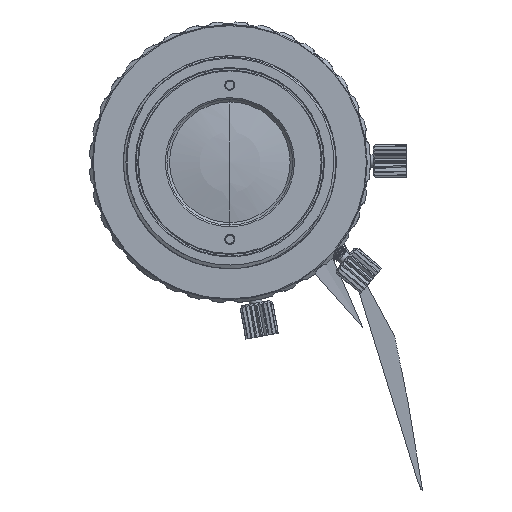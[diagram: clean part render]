
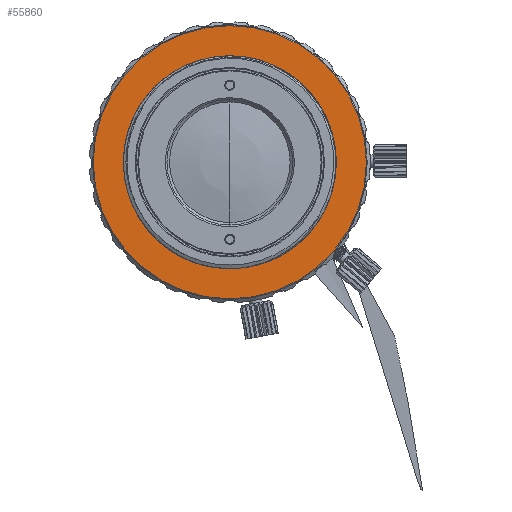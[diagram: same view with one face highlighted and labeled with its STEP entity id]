
A CAD part, front view. The second image highlights one B-rep face of the part: STEP entity #55860.
In plain terms, the highlighted planar face has unit normal (0, -1, 0).
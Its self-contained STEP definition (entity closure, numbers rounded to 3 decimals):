
#52175=CARTESIAN_POINT('',(0.,-1.,0.));
#52176=DIRECTION('',(0.,1.,0.));
#52177=DIRECTION('',(-1.,0.,0.));
#52178=AXIS2_PLACEMENT_3D('',#52175,#52176,#52177);
#52180=CARTESIAN_POINT('',(0.,-1.,
0.));
#52181=DIRECTION('',(0.,1.,0.));
#52182=DIRECTION('',(1.,0.,0.));
#52183=AXIS2_PLACEMENT_3D('',#52180,#52181,#52182);
#52185=CARTESIAN_POINT('',(0.,-1.,
0.));
#52186=DIRECTION('',(0.,1.,0.));
#52187=DIRECTION('',(0.,0.,-1.));
#52188=AXIS2_PLACEMENT_3D('',#52185,#52186,#52187);
#52190=CARTESIAN_POINT('',(0.,-1.,0.));
#52191=DIRECTION('',(0.,-1.,0.));
#52192=DIRECTION('',(1.,0.,0.));
#52193=AXIS2_PLACEMENT_3D('',#52190,#52191,#52192);
#52195=CARTESIAN_POINT('',(0.,-1.,0.));
#52196=DIRECTION('',(0.,-1.,0.));
#52197=DIRECTION('',(-1.,0.,0.));
#52198=AXIS2_PLACEMENT_3D('',#52195,#52196,#52197);
#55627=CARTESIAN_POINT('',(-16.3,-1.,0.));
#55628=CARTESIAN_POINT('',(16.3,-1.,0.));
#55629=VERTEX_POINT('',#55627);
#55630=VERTEX_POINT('',#55628);
#55631=CARTESIAN_POINT('',(0.,-1.,-16.3));
#55632=VERTEX_POINT('',#55631);
#55633=CARTESIAN_POINT('',(-12.2,-1.,0.));
#55635=VERTEX_POINT('',#55633);
#55637=CARTESIAN_POINT('',(12.2,-1.,0.));
#55638=VERTEX_POINT('',#55637);
#55841=CARTESIAN_POINT('',(0.,-1.,0.006));
#55842=DIRECTION('',(0.,1.,0.));
#55843=DIRECTION('',(-1.,0.,0.));
#55844=AXIS2_PLACEMENT_3D('',#55841,#55842,#55843);
#55845=PLANE('',#55844);
#55847=ORIENTED_EDGE('',*,*,#55846,.T.);
#55849=ORIENTED_EDGE('',*,*,#55848,.T.);
#55851=ORIENTED_EDGE('',*,*,#55850,.T.);
#55852=EDGE_LOOP('',(#55847,#55849,#55851));
#55853=FACE_OUTER_BOUND('',#55852,.F.);
#55855=ORIENTED_EDGE('',*,*,#55854,.T.);
#55857=ORIENTED_EDGE('',*,*,#55856,.T.);
#55858=EDGE_LOOP('',(#55855,#55857));
#55859=FACE_BOUND('',#55858,.F.);
#52179=CIRCLE('',#52178,16.3);
#52184=CIRCLE('',#52183,16.3);
#52189=CIRCLE('',#52188,16.3);
#52194=CIRCLE('',#52193,12.2);
#52199=CIRCLE('',#52198,12.2);
#55846=EDGE_CURVE('',#55629,#55630,#52179,.T.);
#55848=EDGE_CURVE('',#55630,#55632,#52184,.T.);
#55850=EDGE_CURVE('',#55632,#55629,#52189,.T.);
#55854=EDGE_CURVE('',#55638,#55635,#52194,.T.);
#55856=EDGE_CURVE('',#55635,#55638,#52199,.T.);
#55860=ADVANCED_FACE('',(#55853,#55859),#55845,.F.);
